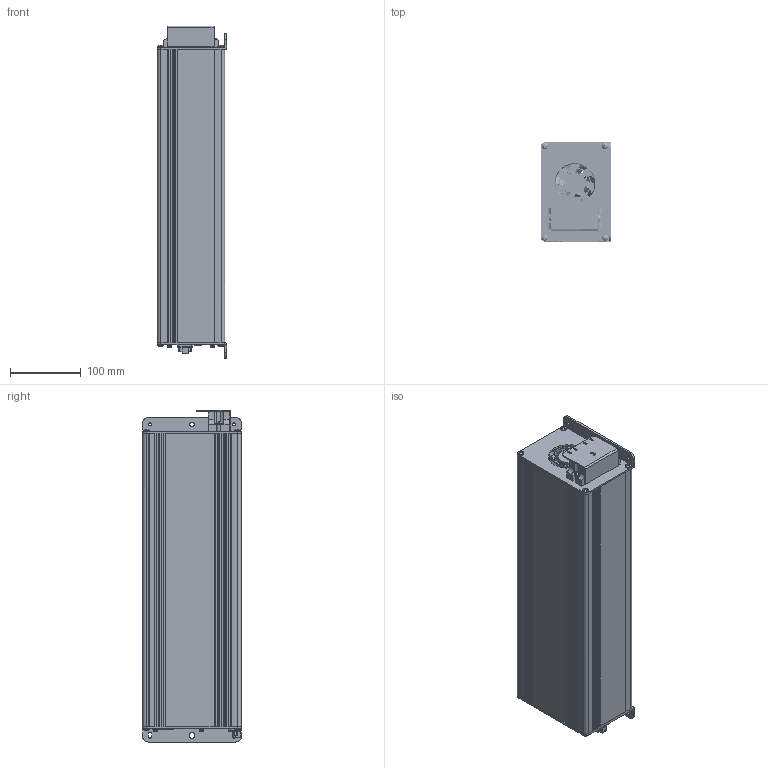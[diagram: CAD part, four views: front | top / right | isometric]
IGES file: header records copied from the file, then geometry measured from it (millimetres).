
Global section: file name: OLED DH415COM_단순화_1; native system: Autodesk Inventor 2026; preprocessor: unknown; author: Administrator; date: 20260714.160601; units: millimetre
Bounding box: 98.5 x 140 x 469.88 mm (x, y, z)
Volume: 779595.6 mm3; surface area: 559698.2 mm2
Topology: 9 solids, 9 shells, 5198 faces, 14267 edges, 9470 vertices
Faces by surface type: bspline 5198
